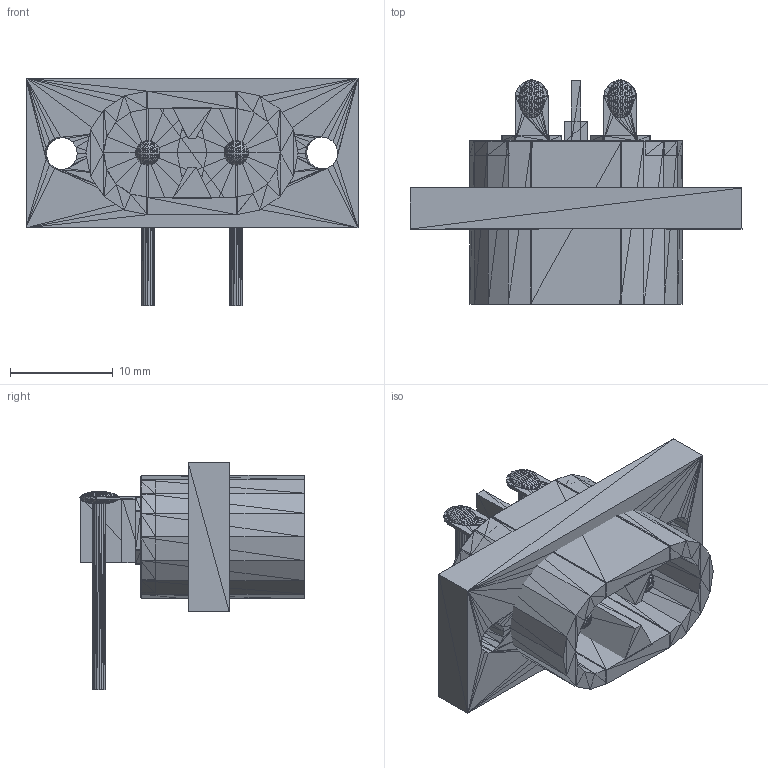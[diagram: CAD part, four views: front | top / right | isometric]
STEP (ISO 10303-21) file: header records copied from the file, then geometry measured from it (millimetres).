
FILE_DESCRIPTION(('HOOPS Exchange Step'),'2;1');
FILE_NAME('***.stp');
FILE_SCHEMA( ('AP242_MANAGED_MODEL_BASED_3D_ENGINEERING_MIM_LF {1 0 10303 442 1 1 4 }') );
Length unit declared in the file: inch
Products named in the file (33): ACSKT2PIN_INT_2; ACSKT2PIN_INT_3; ACSKT2PIN_INT_4; ACSKT2PIN_INT_5; ACSKT2PIN_INT_6; ACSKT2PIN_INT_7; ACSKT2PIN_INT_8; ACSKT2PIN_INT_9; ACSKT2PIN_INT_10; ACSKT2PIN_INT_11; ACSKT2PIN_INT_12; ACSKT2PIN_INT_13; ACSKT2PIN_INT_14; ACSKT2PIN_INT_15; ACSKT2PIN_INT_16; ACSKT2PIN_INT_17; ACSKT2PIN_INT_18; ACSKT2PIN_INT_19; ACSKT2PIN_INT_20; ACSKT2PIN_INT_21; ACSKT2PIN_INT_22; ACSKT2PIN_INT_23; ACSKT2PIN_INT_24; ACSKT2PIN_INT_25; ACSKT2PIN_INT_26; ACSKT2PIN_INT_27; ACSKT2PIN_INT_28; ACSKT2PIN_INT_29; ACSKT2PIN_INT_30; ACSKT2PIN_INT_31; ACSKT2PIN_INT_32; ACSKT2PIN_INT_33; ACSKT2PIN_INT
Assembly tree (32 placements, depth 2):
  ACSKT2PIN_INT
    ACSKT2PIN_INT_2
    ACSKT2PIN_INT_3
    ACSKT2PIN_INT_4
    ACSKT2PIN_INT_5
    ACSKT2PIN_INT_6
    ACSKT2PIN_INT_7
    ACSKT2PIN_INT_8
    ACSKT2PIN_INT_9
    ACSKT2PIN_INT_10
    ACSKT2PIN_INT_11
    ACSKT2PIN_INT_12
    ACSKT2PIN_INT_13
    ACSKT2PIN_INT_14
    ACSKT2PIN_INT_15
    ACSKT2PIN_INT_16
    ACSKT2PIN_INT_17
    ACSKT2PIN_INT_18
    ACSKT2PIN_INT_19
    ACSKT2PIN_INT_20
    ACSKT2PIN_INT_21
    ACSKT2PIN_INT_22
    ACSKT2PIN_INT_23
    ACSKT2PIN_INT_24
    ACSKT2PIN_INT_25
    ACSKT2PIN_INT_26
    ACSKT2PIN_INT_27
    ACSKT2PIN_INT_28
    ACSKT2PIN_INT_29
    ACSKT2PIN_INT_30
    ACSKT2PIN_INT_31
    ACSKT2PIN_INT_32
    ACSKT2PIN_INT_33
Bounding box: 32.39 x 21.91 x 22.23 mm (x, y, z)
Volume: 3544.9 mm3; surface area: 5413.1 mm2
Topology: 32 solids, 32 shells, 3206 faces, 4809 edges, 1661 vertices
Faces by surface type: plane 3206
Entity records: 64019 total; most frequent: DIRECTION 11353, CARTESIAN_POINT 9742, ORIENTED_EDGE 9618, VECTOR 4809, LINE 4809, EDGE_CURVE 4809, AXIS2_PLACEMENT_3D 3272, PLANE 3206
